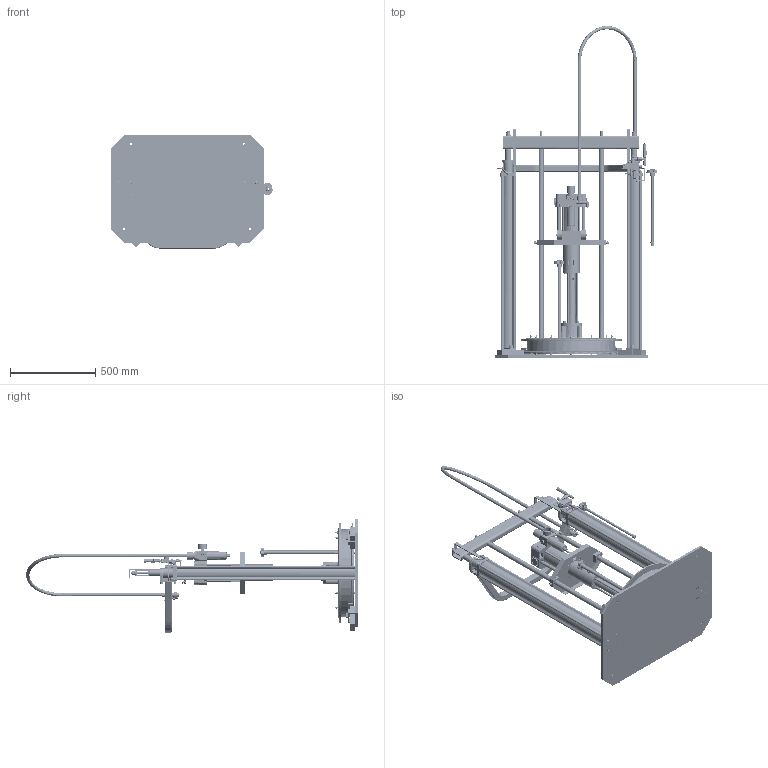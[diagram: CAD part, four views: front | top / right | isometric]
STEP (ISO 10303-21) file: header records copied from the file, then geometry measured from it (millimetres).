
FILE_DESCRIPTION (( 'STEP AP214' ), '1' );
FILE_NAME ('PP200-30-40.STEP', '2024-10-11T14:05:27', ( '' ), ( '' ), 'SwSTEP 2.0', 'SolidWorks 2024', '' );
FILE_SCHEMA (( 'AUTOMOTIVE_DESIGN' ));
Length unit declared in the file: millimetre
Products named in the file (1): PP200-30-40
Bounding box: 954.96 x 1948.45 x 665.86 mm (x, y, z)
Volume: 36459792.2 mm3; surface area: 6975182.8 mm2
Topology: 1 solids, 19 shells, 4546 faces, 12189 edges, 8057 vertices
Faces by surface type: plane 1887, cylinder 1261, cone 703, bspline 695
Full cylindrical faces by diameter (mm): 1.25 x12, 3 x11, 3.3 x2, 3.4 x4, 3.5 x6, 3.9 x1, 4 x6, 4.2 x3, 4.5 x11, 4.6 x2, 5 x54, 5.04 x1, 5.3 x5, 5.5 x7, 6 x52, 6.2 x1, 6.4 x3, 6.5 x14, 6.6 x2, 6.8 x2, 7 x7, 7.1 x3, 7.9 x1, 8 x25, 8.1 x1, 8.5 x18, 8.566 x5, 8.647 x2, 8.8 x1, 9 x10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
Entity records: 285685 total; most frequent: CARTESIAN_POINT 193257, ORIENTED_EDGE 20918, DIRECTION 13613, EDGE_CURVE 10459, VERTEX_POINT 7591, EDGE_LOOP 6432, FACE_OUTER_BOUND 5359, B_SPLINE_CURVE_WITH_KNOTS 5181
